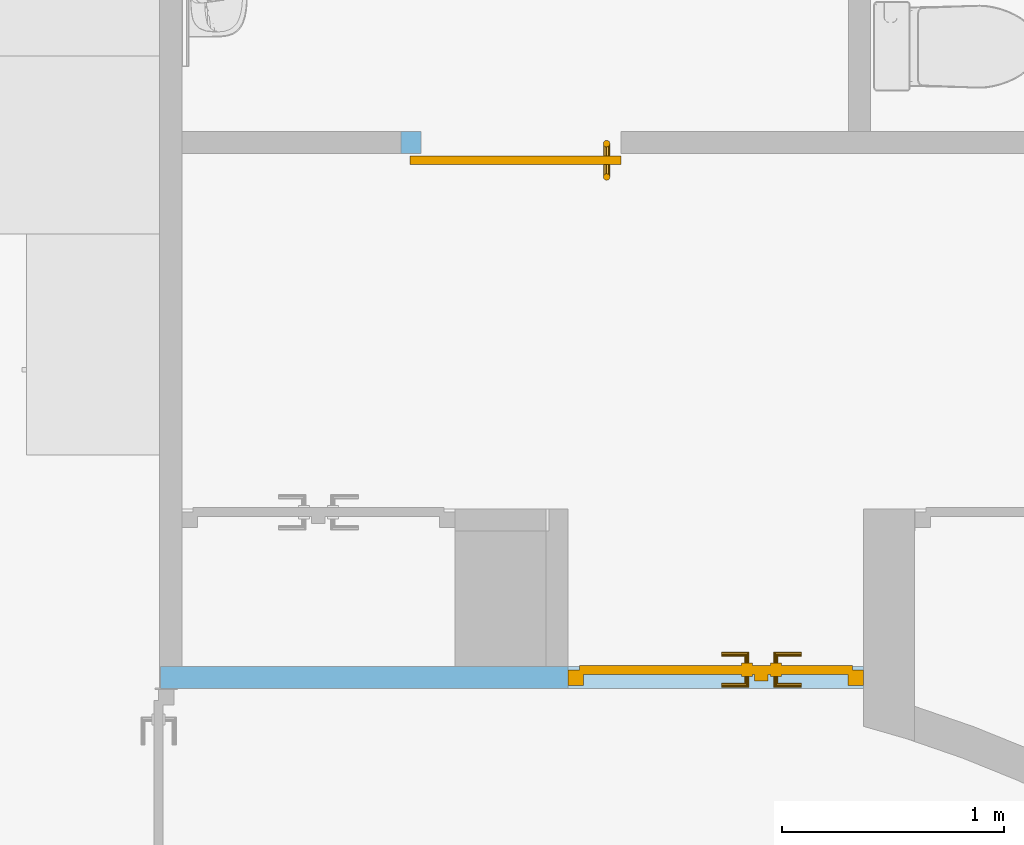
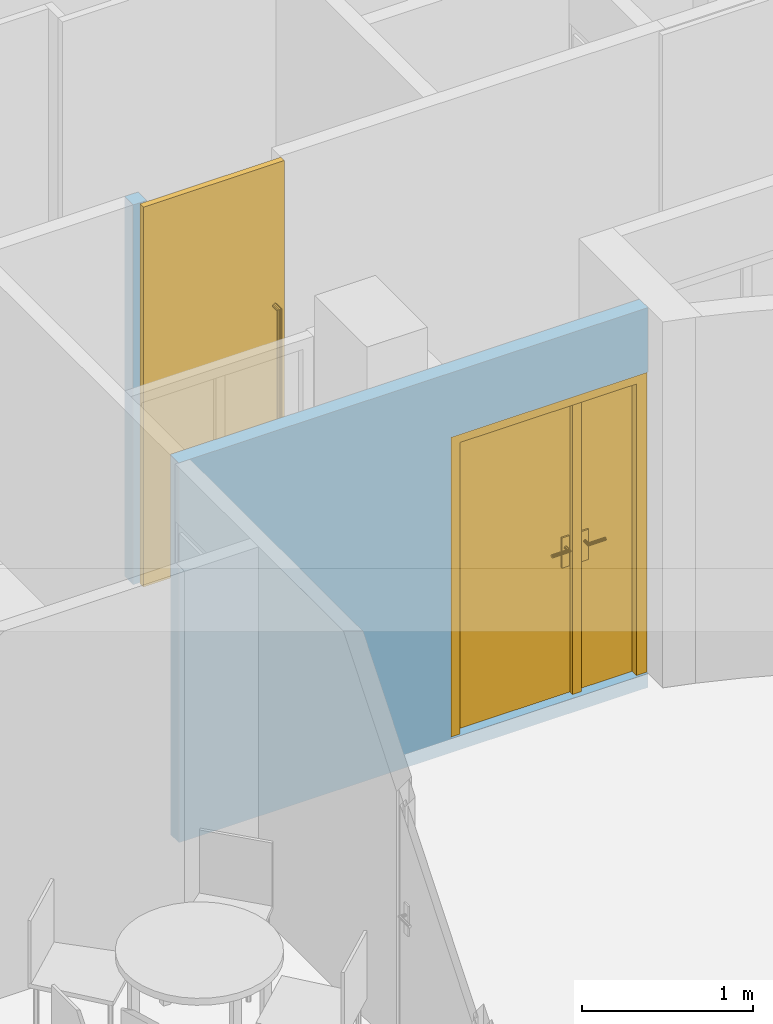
"""IFC4 building model written with IfcOpenShell, lengths in metres."""

import ifcopenshell
import ifcopenshell.guid

model = None  # the IFC model being written
_history = None  # IfcOwnerHistory: only IFC2X3 demands one
_inside = {}  # id of a spatial element -> (the spatial element, [elements in it])
_under = {}  # id of a project, library or spatial element -> (it, [spatial elements below it])
_declared = {}  # id of a project -> (the project, [libraries it declares])
_typed = {}  # id of a type object -> (the type object, [elements of that type])
_made_of = {}  # id of a material, layer set ... -> (it, [elements and type objects made of it])


def new_model(schema):
    """Start an empty IFC model of exactly this schema.

    Asked for "IFC4X3", IfcOpenShell would pick the latest addendum, in which some entities
    have other attributes; the version numbers below select the first issue.
    IFC2X3 requires an IfcOwnerHistory on every rooted entity: one is made here for all.
    """
    global model, _history
    if schema == "IFC4X3":
        model = ifcopenshell.file(schema_version=(4, 3, 0, 0))
    else:
        model = ifcopenshell.file(schema=schema)
    _inside.clear()
    _under.clear()
    _declared.clear()
    _typed.clear()
    _made_of.clear()
    _history = None
    if model.schema == "IFC2X3":
        org = make("IfcOrganization", Name="unknown")
        user = make(
            "IfcPersonAndOrganization",
            ThePerson=make("IfcPerson", FamilyName="unknown"),
            TheOrganization=org,
        )
        app = make(
            "IfcApplication",
            ApplicationDeveloper=org,
            Version="unknown",
            ApplicationFullName="unknown",
            ApplicationIdentifier="unknown",
        )
        _history = make(
            "IfcOwnerHistory",
            OwningUser=user,
            OwningApplication=app,
            ChangeAction="ADDED",
            CreationDate=0,
        )
    return model


def make(cls, **values):
    """One entity of the class cls with the attributes given. An attribute that is None is left unset."""
    return model.create_entity(
        cls, **{name: value for name, value in values.items() if value is not None}
    )


def entity(cls, *values):
    """Any entity or typed value of the class cls, its attributes in the order of the schema. None: left unset."""
    e = model.create_entity(cls)
    for i, value in enumerate(values):
        if value is not None:
            e[i] = value
    return e


def rooted(cls, **values):
    """An entity with a GlobalId (a new one), such as an element, a storey or a relation."""
    return make(cls, GlobalId=ifcopenshell.guid.new(), OwnerHistory=_history, **values)


def si_unit(unit_type, name, prefix=None):
    """IfcSIUnit, for example si_unit("LENGTHUNIT", "METRE", prefix="MILLI")."""
    return make("IfcSIUnit", UnitType=unit_type, Prefix=prefix, Name=name)


def converted_unit(unit_type, name, factor, base, dimensions=None, offset=None):
    """IfcConversionBasedUnit, such as the inch: factor (a typed value) times the base unit."""
    return make(
        "IfcConversionBasedUnit"
        if offset is None
        else "IfcConversionBasedUnitWithOffset",
        ConversionOffset=offset,
        Dimensions=None
        if dimensions is None
        else entity("IfcDimensionalExponents", *dimensions),
        UnitType=unit_type,
        Name=name,
        ConversionFactor=make(
            "IfcMeasureWithUnit", ValueComponent=factor, UnitComponent=base
        ),
    )


def derived_unit(unit_type, elements):
    """IfcDerivedUnit: a product of units, each with its exponent."""
    return make(
        "IfcDerivedUnit",
        Elements=[
            make("IfcDerivedUnitElement", Unit=unit, Exponent=power)
            for unit, power in elements
        ],
        UnitType=unit_type,
    )


def assignment(units):
    """IfcUnitAssignment: the units of a project."""
    return None if units is None else make("IfcUnitAssignment", Units=units)


def point(xyz):
    """IfcCartesianPoint."""
    return None if xyz is None else make("IfcCartesianPoint", Coordinates=xyz)


def direction(xyz):
    """IfcDirection."""
    return None if xyz is None else make("IfcDirection", DirectionRatios=xyz)


def frame(location, z_axis=None, x_axis=None):
    """IfcAxis2Placement3D, a coordinate frame: its origin and axes. An axis left out is left unset."""
    return make(
        "IfcAxis2Placement3D",
        Location=point(location),
        Axis=direction(z_axis),
        RefDirection=direction(x_axis),
    )


def frame_2d(location, x_axis=None):
    """IfcAxis2Placement2D, a coordinate frame in the plane: its origin and x axis."""
    return make(
        "IfcAxis2Placement2D", Location=point(location), RefDirection=direction(x_axis)
    )


def origin():
    """The frame at (0, 0, 0) with its axes left unset."""
    return frame((0.0, 0.0, 0.0))


def origin_with_axes():
    """The frame at (0, 0, 0) with the z axis (0, 0, 1) and the x axis (1, 0, 0) written out."""
    return frame((0.0, 0.0, 0.0), z_axis=(0.0, 0.0, 1.0), x_axis=(1.0, 0.0, 0.0))


def place(relative_to, where):
    """IfcLocalPlacement: puts the frame where relative to a parent placement (None: the world)."""
    return make(
        "IfcLocalPlacement", PlacementRelTo=relative_to, RelativePlacement=where
    )


def context(
    kind, dimensions, precision=None, world=None, true_north=None, identifier=None
):
    """IfcGeometricRepresentationContext, for example the 3D "Model" context."""
    return make(
        "IfcGeometricRepresentationContext",
        ContextIdentifier=identifier,
        ContextType=kind,
        CoordinateSpaceDimension=dimensions,
        Precision=precision,
        WorldCoordinateSystem=world,
        TrueNorth=true_north,
    )


def subcontext(parent, identifier, kind, view, scale=None):
    """IfcGeometricRepresentationSubContext, for example "Body" below "Model"."""
    return make(
        "IfcGeometricRepresentationSubContext",
        ContextIdentifier=identifier,
        ContextType=kind,
        ParentContext=parent,
        TargetScale=scale,
        TargetView=view,
    )


def project(units=None, contexts=None):
    """IfcProject with its units and contexts."""
    return rooted(
        "IfcProject",
        Name="project",
        RepresentationContexts=contexts,
        UnitsInContext=assignment(units),
    )


def spatial(cls, under=None, at=None, **own):
    """A site, building, storey or space (cls), placed at a placement, below another one or the project."""
    s = rooted(cls, ObjectPlacement=at, **own)
    if under is not None:
        _under.setdefault(under.id(), (under, []))[1].append(s)
    return s


def polyline(points):
    """IfcPolyline through the points."""
    return make("IfcPolyline", Points=[point(p) for p in points])


def profile(cls, at=None, kind="AREA", **sizes):
    """A parametric profile (cls). Its sizes go by their IFC names, for example OverallWidth=200.0."""
    return make(cls, ProfileType=kind, Position=at, **sizes)


def rectangle(**sizes):
    """IfcRectangleProfileDef."""
    return profile("IfcRectangleProfileDef", **sizes)


def outline(outer, holes=None, kind="AREA"):
    """IfcArbitraryClosedProfileDef: a profile drawn as a closed curve; with holes, ...WithVoids."""
    if holes is None:
        return make("IfcArbitraryClosedProfileDef", ProfileType=kind, OuterCurve=outer)
    return make(
        "IfcArbitraryProfileDefWithVoids",
        ProfileType=kind,
        OuterCurve=outer,
        InnerCurves=holes,
    )


def extrude(swept, where, along, depth):
    """IfcExtrudedAreaSolid: the profile swept, set in the frame where, extruded along a direction by depth."""
    return make(
        "IfcExtrudedAreaSolid",
        SweptArea=swept,
        Position=where,
        ExtrudedDirection=direction(along),
        Depth=depth,
    )


def faces_of(points, faces, orient=None, outer=None):
    """IfcFace entities. A face is a list of loops; a loop is a list of indices into points, from 0.

    orient and outer hold one flag for each loop. By default every Orientation is true, the
    first loop of a face is its IfcFaceOuterBound and the others are IfcFaceBound.
    """
    made = []
    for i, loops in enumerate(faces):
        bounds = []
        for j, loop in enumerate(loops):
            is_outer = j == 0 if outer is None else outer[i][j]
            bounds.append(
                make(
                    "IfcFaceOuterBound" if is_outer else "IfcFaceBound",
                    Bound=make("IfcPolyLoop", Polygon=[points[k] for k in loop]),
                    Orientation=True if orient is None else orient[i][j],
                )
            )
        made.append(make("IfcFace", Bounds=bounds))
    return made


def faceted_brep(points, faces, orient=None, outer=None, voids=None):
    """IfcFacetedBrep: a solid bounded by flat faces; with voids (closed shells), ...WithVoids."""
    shared = [point(p) for p in points]
    hull = make("IfcClosedShell", CfsFaces=faces_of(shared, faces, orient, outer))
    if voids is None:
        return make("IfcFacetedBrep", Outer=hull)
    return make(
        "IfcFacetedBrepWithVoids",
        Outer=hull,
        Voids=[
            make(cls, CfsFaces=faces_of(shared, fs, o, b)) for cls, fs, o, b in voids
        ],
    )


def shape(context_of_items, identifier, shape_type, items):
    """IfcShapeRepresentation: the items that make up one representation, for example the "Body"."""
    return make(
        "IfcShapeRepresentation",
        ContextOfItems=context_of_items,
        RepresentationIdentifier=identifier,
        RepresentationType=shape_type,
        Items=items,
    )


def source(mapping_origin, context_of_items, identifier, shape_type, items):
    """IfcRepresentationMap: a shape defined once, which mapped items show again and again."""
    return make(
        "IfcRepresentationMap",
        MappingOrigin=mapping_origin,
        MappedRepresentation=shape(context_of_items, identifier, shape_type, items),
    )


def transform(
    local_origin,
    x_axis=None,
    y_axis=None,
    z_axis=None,
    scale=None,
    scale2=None,
    scale3=None,
    uniform=True,
):
    """IfcCartesianTransformationOperator3D, or its non-uniform kind. x_axis, y_axis, z_axis: its Axis1, 2, 3."""
    if uniform:
        return make(
            "IfcCartesianTransformationOperator3D",
            Axis1=direction(x_axis),
            Axis2=direction(y_axis),
            LocalOrigin=point(local_origin),
            Scale=scale,
            Axis3=direction(z_axis),
        )
    return make(
        "IfcCartesianTransformationOperator3DnonUniform",
        Axis1=direction(x_axis),
        Axis2=direction(y_axis),
        LocalOrigin=point(local_origin),
        Scale=scale,
        Axis3=direction(z_axis),
        Scale2=scale2,
        Scale3=scale3,
    )


def mapped(mapping_source, mapping_target):
    """IfcMappedItem: shows the shape of a source again, moved by a transform."""
    return make(
        "IfcMappedItem", MappingSource=mapping_source, MappingTarget=mapping_target
    )


def material(Name=None, Category=None):
    """IfcMaterial."""
    return make("IfcMaterial", Name=Name, Category=Category)


def layer(
    of_material, thickness, ventilated=None, Name=None, Category=None, Priority=None
):
    """IfcMaterialLayer: one layer of a wall or slab, of a material (None: an air gap)."""
    return make(
        "IfcMaterialLayer",
        Material=of_material,
        LayerThickness=thickness,
        IsVentilated=ventilated,
        Name=Name,
        Category=Category,
        Priority=Priority,
    )


def layer_set(layers, Name=None):
    """IfcMaterialLayerSet."""
    return make("IfcMaterialLayerSet", MaterialLayers=layers, LayerSetName=Name)


def layer_usage(for_layer_set, set_direction, sense, offset, extent=None):
    """IfcMaterialLayerSetUsage: how a layer set lies in its element."""
    return make(
        "IfcMaterialLayerSetUsage",
        ForLayerSet=for_layer_set,
        LayerSetDirection=set_direction,
        DirectionSense=sense,
        OffsetFromReferenceLine=offset,
        ReferenceExtent=extent,
    )


def made_of(thing, what):
    """Note that an element or type object is made of a material, layer set ...; save() writes the relation."""
    if what is not None:
        _made_of.setdefault(what.id(), (what, []))[1].append(thing)
    return thing


def element(
    cls,
    number,
    at=None,
    inside=None,
    cuts=None,
    type_object=None,
    material=None,
    context=None,
    identifier="Body",
    shape_type=None,
    held_by="IfcProductDefinitionShape",
    body=None,
    shapes=None,
    **own,
):
    """One element of the class cls, such as IfcWall. Its Tag is "e" and its number.

    at: its placement. inside: the storey or other place that contains it. cuts: it is an
    opening in that element (IfcRelVoidsElement). A single representation is given by context,
    identifier, shape_type and body (its items); several are given by shapes. held_by: the class
    of the entity that holds the representations. save() writes the other relations.
    """
    e = rooted(cls, Tag="e%d" % number, ObjectPlacement=at, **own)
    if body is not None:
        shapes = [shape(context, identifier, shape_type, body)]
    if shapes is not None:
        e.Representation = make(held_by, Representations=shapes)
    if inside is not None:
        _inside.setdefault(inside.id(), (inside, []))[1].append(e)
    if cuts is not None:
        rooted(
            "IfcRelVoidsElement", RelatingBuildingElement=cuts, RelatedOpeningElement=e
        )
    if type_object is not None:
        _typed.setdefault(type_object.id(), (type_object, []))[1].append(e)
    return made_of(e, material)


def fill(opening, filler):
    """IfcRelFillsElement: the door or window that sits in an opening."""
    return rooted(
        "IfcRelFillsElement",
        RelatingOpeningElement=opening,
        RelatedBuildingElement=filler,
    )


def aggregate(whole, parts):
    """IfcRelAggregates: a whole, such as a stair, and the parts it consists of."""
    return rooted("IfcRelAggregates", RelatingObject=whole, RelatedObjects=parts)


def save(model, path):
    """Write the relations noted so far, then the file.

    IfcRelAggregates (storeys below a building ...), IfcRelContainedInSpatialStructure (elements
    in a storey), IfcRelDefinesByType, IfcRelAssociatesMaterial and IfcRelDeclares: one each for
    every whole, place, type object, material and project.
    """
    for whole, parts in _under.values():
        aggregate(whole, parts)
    for where, things in _inside.values():
        rooted(
            "IfcRelContainedInSpatialStructure",
            RelatedElements=things,
            RelatingStructure=where,
        )
    for kind, things in _typed.values():
        rooted("IfcRelDefinesByType", RelatedObjects=things, RelatingType=kind)
    for what, things in _made_of.values():
        rooted("IfcRelAssociatesMaterial", RelatedObjects=things, RelatingMaterial=what)
    for by, libraries in _declared.values():
        rooted("IfcRelDeclares", RelatingContext=by, RelatedDefinitions=libraries)
    model.write(path)


model = new_model("IFC4")

# Units and contexts
model_context = context("Model", 3, precision=1e-05, world=origin())
body_context = subcontext(model_context, "Body", "Model", "MODEL_VIEW")
ifc_project = project(units=[si_unit("LENGTHUNIT", "METRE"), si_unit("AREAUNIT", "SQUARE_METRE"), si_unit("VOLUMEUNIT", "CUBIC_METRE"), si_unit("MASSUNIT", "GRAM", prefix="KILO"), converted_unit("PLANEANGLEUNIT", "DEGREE", entity("IfcPlaneAngleMeasure", 0.0174532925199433), si_unit("PLANEANGLEUNIT", "RADIAN"), dimensions=[0, 0, 0, 0, 0, 0, 0]), derived_unit("THERMALTRANSMITTANCEUNIT", [(si_unit("POWERUNIT", "WATT"), 1), (si_unit("THERMODYNAMICTEMPERATUREUNIT", "KELVIN"), -1), (si_unit("LENGTHUNIT", "METRE"), -2)]), derived_unit("VOLUMETRICFLOWRATEUNIT", [(si_unit("LENGTHUNIT", "METRE"), 3), (converted_unit("TIMEUNIT", "hour", entity("IfcTimeMeasure", 3600.0), si_unit("TIMEUNIT", "SECOND"), dimensions=[0, 0, 1, 0, 0, 0, 0]), -1), (si_unit("LENGTHUNIT", "METRE"), -1)])], contexts=[model_context])

# Building, storeys
building_placement = place(None, origin())
building = spatial("IfcBuilding", under=ifc_project, at=building_placement, Name="HABITATGE PLURIFAMILIAR", CompositionType="ELEMENT")
storey_1_placement = place(building_placement, frame((0.0, 0.0, 12.27)))
storey_1 = spatial("IfcBuildingStorey", under=building, at=storey_1_placement, Name="PLANTA TERCERA", CompositionType="ELEMENT", Elevation=12.27)
storey_2_placement = place(storey_1_placement, frame((0.0, 0.0, 9.26)))
storey_2 = spatial("IfcBuildingStorey", under=storey_1, at=storey_2_placement, Name="NOU", CompositionType="PARTIAL")

# Wall, opening, door
ifc_material_1 = material()
ifc_layer_1 = layer(ifc_material_1, 0.1)
ifc_layer_set_1 = layer_set([ifc_layer_1])
ifc_layer_usage_1 = layer_usage(ifc_layer_set_1, "AXIS2", "POSITIVE", 0.0)
wall_1_placement = place(storey_2_placement, frame((404.341049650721, 23.4194598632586, -9.36)))
wall_1 = element("IfcWall", 1, at=wall_1_placement, inside=storey_2, material=ifc_layer_usage_1, Name="Evans P3", context=body_context, shape_type="SweptSolid", body=[
    extrude(rectangle(XDim=3.16593512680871, YDim=0.1, at=frame_2d((1.58296756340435, 0.05), x_axis=(1.0, 0.0))), origin_with_axes(), (0.0, 0.0, 1.0), 2.71),
])
opening_1_placement = place(wall_1_placement, frame((1.83593512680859, 0.0, 0.1), z_axis=(0.0, 1.0, 0.0), x_axis=(0.0, 0.0, 1.0)))
opening_1 = element("IfcOpeningElement", 2, at=opening_1_placement, cuts=wall_1, Name="Vano porta P3", ObjectType="Opening", context=body_context, shape_type="SweptSolid", body=[
    extrude(outline(polyline([(2.15, 1.33000000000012), (2.15, 0.0), (0.0, 0.0), (0.0, 1.33000000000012), (2.15, 1.33000000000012)])), origin_with_axes(), (0.0, 0.0, 1.0), 0.1),
])
shared_shape_1 = source(origin_with_axes(), body_context, "Body", "Brep", [
    faceted_brep([(0.0, 0.07, 2.15), (0.0, 0.07, 0.0), (0.07, 0.07, 0.0), (0.07, 0.07, 2.15), (0.0, 0.0, 0.0), (0.0, 0.0, 2.15), (0.07, 0.0, 2.15), (0.07, 0.0, 0.0)], [[[0, 1, 2, 3]], [[4, 5, 6, 7]], [[1, 0, 5, 4]], [[2, 1, 4, 7]], [[3, 2, 7, 6]], [[0, 3, 6, 5]]], orient=[[False], [False], [False], [False], [False], [False]]),
    faceted_brep([(1.26000000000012, 0.07, 2.15), (1.26000000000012, 0.07, 0.0), (1.33000000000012, 0.07, 0.0), (1.33000000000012, 0.07, 2.15), (1.26000000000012, 0.0, 0.0), (1.26000000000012, 0.0, 2.15), (1.33000000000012, 0.0, 2.15), (1.33000000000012, 0.0, 0.0)], [[[0, 1, 2, 3]], [[4, 5, 6, 7]], [[1, 0, 5, 4]], [[2, 1, 4, 7]], [[3, 2, 7, 6]], [[0, 3, 6, 5]]], orient=[[False], [False], [False], [False], [False], [False]]),
    faceted_brep([(0.07, 0.07, 2.15), (0.07, 0.07, 2.08), (1.26000000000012, 0.07, 2.08), (1.26000000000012, 0.07, 2.15), (0.07, 0.0, 2.08), (0.07, 0.0, 2.15), (1.26000000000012, 0.0, 2.15), (1.26000000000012, 0.0, 2.08)], [[[0, 1, 2, 3]], [[4, 5, 6, 7]], [[1, 0, 5, 4]], [[2, 1, 4, 7]], [[3, 2, 7, 6]], [[0, 3, 6, 5]]], orient=[[False], [False], [False], [False], [False], [False]]),
    faceted_brep([(0.05, 0.09, 2.1), (0.05, 0.09, 0.0), (0.870000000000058, 0.09, 0.0), (0.870000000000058, 0.09, 2.1), (0.05, 0.05, 0.0), (0.05, 0.05, 2.1), (0.870000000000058, 0.05, 2.1), (0.870000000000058, 0.05, 0.0)], [[[0, 1, 2, 3]], [[4, 5, 6, 7]], [[1, 0, 5, 4]], [[2, 1, 4, 7]], [[3, 2, 7, 6]], [[0, 3, 6, 5]]], orient=[[False], [False], [False], [False], [False], [False]]),
    faceted_brep([(0.840000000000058, 0.05, 2.08), (0.840000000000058, 0.05, 0.0), (0.900000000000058, 0.05, 0.0), (0.900000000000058, 0.05, 2.08), (0.840000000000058, 0.02, 0.0), (0.840000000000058, 0.02, 2.08), (0.900000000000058, 0.02, 2.08), (0.900000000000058, 0.02, 0.0)], [[[0, 1, 2, 3]], [[4, 5, 6, 7]], [[1, 0, 5, 4]], [[2, 1, 4, 7]], [[3, 2, 7, 6]], [[0, 3, 6, 5]]], orient=[[False], [False], [False], [False], [False], [False]]),
    faceted_brep([(0.780000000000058, 0.05, 1.125), (0.780000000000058, 0.05, 0.91), (0.830000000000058, 0.05, 0.91), (0.830000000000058, 0.05, 1.125), (0.780000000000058, 0.04, 0.91), (0.780000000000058, 0.04, 1.125), (0.830000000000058, 0.04, 1.125), (0.830000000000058, 0.04, 0.91)], [[[0, 1, 2, 3]], [[4, 5, 6, 7]], [[1, 0, 5, 4]], [[2, 1, 4, 7]], [[3, 2, 7, 6]], [[0, 3, 6, 5]]], orient=[[False], [False], [False], [False], [False], [False]]),
    faceted_brep([(0.805000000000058, 0.04, 1.06), (0.800000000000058, 0.04, 1.05866025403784), (0.796339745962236, 0.04, 1.055), (0.795000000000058, 0.04, 1.05), (0.796339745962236, 0.04, 1.045), (0.800000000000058, 0.04, 1.04133974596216), (0.805000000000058, 0.04, 1.04), (0.810000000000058, 0.04, 1.04133974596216), (0.813660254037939, 0.04, 1.045), (0.815000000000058, 0.04, 1.05), (0.813660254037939, 0.04, 1.055), (0.810000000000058, 0.04, 1.05866025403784), (0.810000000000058, -0.005, 1.05866025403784), (0.805000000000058, 0.0, 1.06), (0.813660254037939, -0.00866025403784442, 1.055), (0.815000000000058, -0.01, 1.05), (0.813660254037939, -0.00866025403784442, 1.045), (0.810000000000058, -0.005, 1.04133974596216), (0.805000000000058, 0.0, 1.04), (0.800000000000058, 0.005, 1.04133974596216), (0.796339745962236, 0.00866025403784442, 1.045), (0.795000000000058, 0.01, 1.05), (0.796339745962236, 0.00866025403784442, 1.055), (0.800000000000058, 0.005, 1.05866025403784), (0.690000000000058, 0.0, 1.06), (0.690000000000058, -0.005, 1.05866025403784), (0.690000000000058, -0.00866025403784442, 1.055), (0.690000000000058, -0.01, 1.05), (0.690000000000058, -0.00866025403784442, 1.045), (0.690000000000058, -0.005, 1.04133974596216), (0.690000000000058, 0.0, 1.04), (0.690000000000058, 0.005, 1.04133974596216), (0.690000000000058, 0.00866025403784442, 1.045), (0.690000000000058, 0.01, 1.05), (0.690000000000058, 0.00866025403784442, 1.055), (0.690000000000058, 0.005, 1.05866025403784)], [[[0, 1, 2, 3, 4, 5, 6, 7, 8, 9, 10, 11]], [[0, 11, 12, 13]], [[11, 10, 14, 12]], [[10, 9, 15, 14]], [[9, 8, 16, 15]], [[8, 7, 17, 16]], [[7, 6, 18, 17]], [[6, 5, 19, 18]], [[5, 4, 20, 19]], [[4, 3, 21, 20]], [[3, 2, 22, 21]], [[2, 1, 23, 22]], [[1, 0, 13, 23]], [[24, 25, 26, 27, 28, 29, 30, 31, 32, 33, 34, 35]], [[13, 12, 25, 24]], [[12, 14, 26, 25]], [[14, 15, 27, 26]], [[15, 16, 28, 27]], [[16, 17, 29, 28]], [[17, 18, 30, 29]], [[18, 19, 31, 30]], [[19, 20, 32, 31]], [[20, 21, 33, 32]], [[21, 22, 34, 33]], [[22, 23, 35, 34]], [[23, 13, 24, 35]]], orient=[[False], [False], [False], [False], [False], [False], [False], [False], [False], [False], [False], [False], [False], [False], [False], [False], [False], [False], [False], [False], [False], [False], [False], [False], [False], [False]]),
    faceted_brep([(0.780000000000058, 0.09, 1.125), (0.830000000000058, 0.09, 1.125), (0.830000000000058, 0.09, 0.91), (0.780000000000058, 0.09, 0.91), (0.780000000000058, 0.1, 0.91), (0.830000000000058, 0.1, 0.91), (0.830000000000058, 0.1, 1.125), (0.780000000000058, 0.1, 1.125)], [[[0, 1, 2, 3]], [[4, 5, 6, 7]], [[3, 4, 7, 0]], [[2, 5, 4, 3]], [[1, 6, 5, 2]], [[0, 7, 6, 1]]], orient=[[False], [False], [False], [False], [False], [False]]),
    faceted_brep([(0.805000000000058, 0.1, 1.06), (0.810000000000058, 0.1, 1.05866025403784), (0.813660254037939, 0.1, 1.055), (0.815000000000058, 0.1, 1.05), (0.813660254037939, 0.1, 1.045), (0.810000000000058, 0.1, 1.04133974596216), (0.805000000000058, 0.1, 1.04), (0.800000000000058, 0.1, 1.04133974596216), (0.796339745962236, 0.1, 1.045), (0.795000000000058, 0.1, 1.05), (0.796339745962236, 0.1, 1.055), (0.800000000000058, 0.1, 1.05866025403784), (0.805000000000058, 0.14, 1.06), (0.810000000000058, 0.145, 1.05866025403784), (0.813660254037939, 0.148660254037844, 1.055), (0.815000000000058, 0.15, 1.05), (0.813660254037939, 0.148660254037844, 1.045), (0.810000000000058, 0.145, 1.04133974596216), (0.805000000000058, 0.14, 1.04), (0.800000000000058, 0.135, 1.04133974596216), (0.796339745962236, 0.131339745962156, 1.045), (0.795000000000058, 0.13, 1.05), (0.796339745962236, 0.131339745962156, 1.055), (0.800000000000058, 0.135, 1.05866025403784), (0.690000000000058, 0.14, 1.06), (0.690000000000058, 0.135, 1.05866025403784), (0.690000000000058, 0.131339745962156, 1.055), (0.690000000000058, 0.13, 1.05), (0.690000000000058, 0.131339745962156, 1.045), (0.690000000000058, 0.135, 1.04133974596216), (0.690000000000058, 0.14, 1.04), (0.690000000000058, 0.145, 1.04133974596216), (0.690000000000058, 0.148660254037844, 1.045), (0.690000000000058, 0.15, 1.05), (0.690000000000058, 0.148660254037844, 1.055), (0.690000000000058, 0.145, 1.05866025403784)], [[[0, 1, 2, 3, 4, 5, 6, 7, 8, 9, 10, 11]], [[0, 12, 13, 1]], [[1, 13, 14, 2]], [[2, 14, 15, 3]], [[3, 15, 16, 4]], [[4, 16, 17, 5]], [[5, 17, 18, 6]], [[6, 18, 19, 7]], [[7, 19, 20, 8]], [[8, 20, 21, 9]], [[9, 21, 22, 10]], [[10, 22, 23, 11]], [[11, 23, 12, 0]], [[24, 25, 26, 27, 28, 29, 30, 31, 32, 33, 34, 35]], [[12, 24, 35, 13]], [[13, 35, 34, 14]], [[14, 34, 33, 15]], [[15, 33, 32, 16]], [[16, 32, 31, 17]], [[17, 31, 30, 18]], [[18, 30, 29, 19]], [[19, 29, 28, 20]], [[20, 28, 27, 21]], [[21, 27, 26, 22]], [[22, 26, 25, 23]], [[23, 25, 24, 12]]], orient=[[False], [False], [False], [False], [False], [False], [False], [False], [False], [False], [False], [False], [False], [False], [False], [False], [False], [False], [False], [False], [False], [False], [False], [False], [False], [False]]),
    faceted_brep([(0.871000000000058, 0.09, 2.1), (0.871000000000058, 0.09, 0.0), (1.28000000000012, 0.09, 0.0), (1.28000000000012, 0.09, 2.1), (0.871000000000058, 0.05, 0.0), (0.871000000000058, 0.05, 2.1), (1.28000000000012, 0.05, 2.1), (1.28000000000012, 0.05, 0.0)], [[[0, 1, 2, 3]], [[4, 5, 6, 7]], [[1, 0, 5, 4]], [[2, 1, 4, 7]], [[3, 2, 7, 6]], [[0, 3, 6, 5]]], orient=[[False], [False], [False], [False], [False], [False]]),
    faceted_brep([(0.911000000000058, 0.05, 1.125), (0.911000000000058, 0.05, 0.91), (0.961000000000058, 0.05, 0.91), (0.961000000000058, 0.05, 1.125), (0.911000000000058, 0.04, 0.91), (0.911000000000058, 0.04, 1.125), (0.961000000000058, 0.04, 1.125), (0.961000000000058, 0.04, 0.91)], [[[0, 1, 2, 3]], [[4, 5, 6, 7]], [[1, 0, 5, 4]], [[2, 1, 4, 7]], [[3, 2, 7, 6]], [[0, 3, 6, 5]]], orient=[[False], [False], [False], [False], [False], [False]]),
    faceted_brep([(0.936000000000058, 0.04, 1.06), (0.931000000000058, 0.04, 1.05866025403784), (0.927339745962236, 0.04, 1.055), (0.926000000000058, 0.04, 1.05), (0.927339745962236, 0.04, 1.045), (0.931000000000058, 0.04, 1.04133974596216), (0.936000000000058, 0.04, 1.04), (0.941000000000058, 0.04, 1.04133974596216), (0.944660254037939, 0.04, 1.045), (0.946000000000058, 0.04, 1.05), (0.944660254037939, 0.04, 1.055), (0.941000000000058, 0.04, 1.05866025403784), (0.936000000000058, 0.0, 1.06), (0.931000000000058, -0.005, 1.05866025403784), (0.927339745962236, -0.00866025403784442, 1.055), (0.926000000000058, -0.01, 1.05), (0.927339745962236, -0.00866025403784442, 1.045), (0.931000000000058, -0.005, 1.04133974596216), (0.936000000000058, 0.0, 1.04), (0.941000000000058, 0.005, 1.04133974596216), (0.944660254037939, 0.00866025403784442, 1.045), (0.946000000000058, 0.01, 1.05), (0.944660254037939, 0.00866025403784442, 1.055), (0.941000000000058, 0.005, 1.05866025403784), (1.05100000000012, 0.0, 1.06), (1.05100000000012, 0.005, 1.05866025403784), (1.05100000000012, 0.00866025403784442, 1.055), (1.05100000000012, 0.01, 1.05), (1.05100000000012, 0.00866025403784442, 1.045), (1.05100000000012, 0.005, 1.04133974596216), (1.05100000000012, 0.0, 1.04), (1.05100000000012, -0.005, 1.04133974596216), (1.05100000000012, -0.00866025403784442, 1.045), (1.05100000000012, -0.01, 1.05), (1.05100000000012, -0.00866025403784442, 1.055), (1.05100000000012, -0.005, 1.05866025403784)], [[[0, 1, 2, 3, 4, 5, 6, 7, 8, 9, 10, 11]], [[0, 12, 13, 1]], [[1, 13, 14, 2]], [[2, 14, 15, 3]], [[3, 15, 16, 4]], [[4, 16, 17, 5]], [[5, 17, 18, 6]], [[6, 18, 19, 7]], [[7, 19, 20, 8]], [[8, 20, 21, 9]], [[9, 21, 22, 10]], [[10, 22, 23, 11]], [[11, 23, 12, 0]], [[24, 25, 26, 27, 28, 29, 30, 31, 32, 33, 34, 35]], [[12, 24, 35, 13]], [[13, 35, 34, 14]], [[14, 34, 33, 15]], [[15, 33, 32, 16]], [[16, 32, 31, 17]], [[17, 31, 30, 18]], [[18, 30, 29, 19]], [[19, 29, 28, 20]], [[20, 28, 27, 21]], [[21, 27, 26, 22]], [[22, 26, 25, 23]], [[23, 25, 24, 12]]], orient=[[False], [False], [False], [False], [False], [False], [False], [False], [False], [False], [False], [False], [False], [False], [False], [False], [False], [False], [False], [False], [False], [False], [False], [False], [False], [False]]),
    faceted_brep([(0.911000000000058, 0.09, 1.125), (0.961000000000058, 0.09, 1.125), (0.961000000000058, 0.09, 0.91), (0.911000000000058, 0.09, 0.91), (0.911000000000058, 0.1, 0.91), (0.961000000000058, 0.1, 0.91), (0.961000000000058, 0.1, 1.125), (0.911000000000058, 0.1, 1.125)], [[[0, 1, 2, 3]], [[4, 5, 6, 7]], [[3, 4, 7, 0]], [[2, 5, 4, 3]], [[1, 6, 5, 2]], [[0, 7, 6, 1]]], orient=[[False], [False], [False], [False], [False], [False]]),
    faceted_brep([(0.936000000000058, 0.1, 1.06), (0.941000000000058, 0.1, 1.05866025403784), (0.944660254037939, 0.1, 1.055), (0.946000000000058, 0.1, 1.05), (0.944660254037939, 0.1, 1.045), (0.941000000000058, 0.1, 1.04133974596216), (0.936000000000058, 0.1, 1.04), (0.931000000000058, 0.1, 1.04133974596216), (0.927339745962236, 0.1, 1.045), (0.926000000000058, 0.1, 1.05), (0.927339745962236, 0.1, 1.055), (0.931000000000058, 0.1, 1.05866025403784), (0.931000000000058, 0.145, 1.05866025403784), (0.936000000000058, 0.14, 1.06), (0.927339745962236, 0.148660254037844, 1.055), (0.926000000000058, 0.15, 1.05), (0.927339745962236, 0.148660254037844, 1.045), (0.931000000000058, 0.145, 1.04133974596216), (0.936000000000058, 0.14, 1.04), (0.941000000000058, 0.135, 1.04133974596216), (0.944660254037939, 0.131339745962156, 1.045), (0.946000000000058, 0.13, 1.05), (0.944660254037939, 0.131339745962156, 1.055), (0.941000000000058, 0.135, 1.05866025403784), (1.05100000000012, 0.14, 1.06), (1.05100000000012, 0.145, 1.05866025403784), (1.05100000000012, 0.148660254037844, 1.055), (1.05100000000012, 0.15, 1.05), (1.05100000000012, 0.148660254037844, 1.045), (1.05100000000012, 0.145, 1.04133974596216), (1.05100000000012, 0.14, 1.04), (1.05100000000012, 0.135, 1.04133974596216), (1.05100000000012, 0.131339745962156, 1.045), (1.05100000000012, 0.13, 1.05), (1.05100000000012, 0.131339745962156, 1.055), (1.05100000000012, 0.135, 1.05866025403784)], [[[0, 1, 2, 3, 4, 5, 6, 7, 8, 9, 10, 11]], [[0, 11, 12, 13]], [[11, 10, 14, 12]], [[10, 9, 15, 14]], [[9, 8, 16, 15]], [[8, 7, 17, 16]], [[7, 6, 18, 17]], [[6, 5, 19, 18]], [[5, 4, 20, 19]], [[4, 3, 21, 20]], [[3, 2, 22, 21]], [[2, 1, 23, 22]], [[1, 0, 13, 23]], [[24, 25, 26, 27, 28, 29, 30, 31, 32, 33, 34, 35]], [[13, 12, 25, 24]], [[12, 14, 26, 25]], [[14, 15, 27, 26]], [[15, 16, 28, 27]], [[16, 17, 29, 28]], [[17, 18, 30, 29]], [[18, 19, 31, 30]], [[19, 20, 32, 31]], [[20, 21, 33, 32]], [[21, 22, 34, 33]], [[22, 23, 35, 34]], [[23, 13, 24, 35]]], orient=[[False], [False], [False], [False], [False], [False], [False], [False], [False], [False], [False], [False], [False], [False], [False], [False], [False], [False], [False], [False], [False], [False], [False], [False], [False], [False]]),
])
door_1_placement = place(opening_1_placement, frame((0.0, 0.0, 0.015), z_axis=(1.0, 0.0, 0.0), x_axis=(0.0, 1.0, 0.0)))
door_1 = element("IfcDoor", 3, at=door_1_placement, inside=storey_2, Name="Porta P3", OperationType="USERDEFINED", OverallHeight=2.15, OverallWidth=1.33, PredefinedType="DOOR", context=body_context, shape_type="MappedRepresentation", body=[
    mapped(shared_shape_1, transform((0.0, 0.0, 0.0), x_axis=(1.0, 0.0, 0.0), y_axis=(0.0, 1.0, 0.0), z_axis=(0.0, 0.0, 1.0), scale=1.0)),
])
fill(opening_1, door_1)

ifc_material_2 = material()
ifc_layer_2 = layer(ifc_material_2, 0.1)
ifc_layer_set_2 = layer_set([ifc_layer_2])
ifc_layer_usage_2 = layer_usage(ifc_layer_set_2, "AXIS2", "POSITIVE", 0.0)
wall_2_placement = place(storey_2_placement, frame((405.424459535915, 25.8294598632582, -9.36)))
wall_2 = element("IfcWall", 4, at=wall_2_placement, inside=storey_2, material=ifc_layer_usage_2, Name="Evans P3", context=body_context, shape_type="SweptSolid", body=[
    extrude(rectangle(XDim=0.990738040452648, YDim=0.1, at=frame_2d((0.495369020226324, 0.05), x_axis=(1.0, 0.0))), origin_with_axes(), (0.0, 0.0, 1.0), 2.71),
])
opening_2_placement = place(wall_2_placement, frame((0.990738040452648, 0.1, 0.0), z_axis=(0.0, -1.0, 0.0), x_axis=(0.0, 0.0, 1.0)))
opening_2 = element("IfcOpeningElement", 5, at=opening_2_placement, cuts=wall_2, Name="Vano porta P3", ObjectType="Opening", context=body_context, shape_type="SweptSolid", body=[
    extrude(outline(polyline([(2.71, 0.9), (2.71, 0.0), (0.0, 0.0), (0.0, 0.9), (2.71, 0.9)])), origin_with_axes(), (0.0, 0.0, 1.0), 0.1),
])
shared_shape_2 = source(origin_with_axes(), body_context, "Body", "Brep", [
    faceted_brep([(0.0, 0.15, 2.71), (0.0, 0.15, 0.0), (0.95, 0.15, 0.0), (0.95, 0.15, 2.71), (0.0, 0.11, 0.0), (0.0, 0.11, 2.71), (0.95, 0.11, 2.71), (0.95, 0.11, 0.0)], [[[0, 1, 2, 3]], [[4, 5, 6, 7]], [[1, 0, 5, 4]], [[2, 1, 4, 7]], [[3, 2, 7, 6]], [[0, 3, 6, 5]]], orient=[[False], [False], [False], [False], [False], [False]]),
    faceted_brep([(0.08, 0.11, 1.7), (0.0779903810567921, 0.11, 1.7075), (0.0725, 0.11, 1.71299038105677), (0.065, 0.11, 1.715), (0.0575, 0.11, 1.71299038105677), (0.0520096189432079, 0.11, 1.7075), (0.05, 0.11, 1.7), (0.0520096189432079, 0.11, 1.6925), (0.0575, 0.11, 1.68700961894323), (0.065, 0.11, 1.685), (0.0725, 0.11, 1.68700961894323), (0.0779903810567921, 0.11, 1.6925), (0.08, 0.055, 1.7), (0.0779903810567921, 0.0475, 1.7075), (0.0725, 0.0420096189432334, 1.71299038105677), (0.065, 0.04, 1.715), (0.0575, 0.0420096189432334, 1.71299038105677), (0.0520096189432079, 0.0475, 1.7075), (0.05, 0.055, 1.7), (0.0520096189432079, 0.0625, 1.6925), (0.0575, 0.0679903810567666, 1.68700961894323), (0.065, 0.07, 1.685), (0.0725, 0.0679903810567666, 1.68700961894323), (0.0779903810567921, 0.0625, 1.6925), (0.08, 0.055, 0.4), (0.0779903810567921, 0.0475, 0.3925), (0.0725, 0.0420096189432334, 0.387009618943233), (0.065, 0.04, 0.385), (0.0575, 0.0420096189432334, 0.387009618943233), (0.0520096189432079, 0.0475, 0.3925), (0.05, 0.055, 0.4), (0.0520096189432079, 0.0625, 0.4075), (0.0575, 0.0679903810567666, 0.412990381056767), (0.065, 0.07, 0.415), (0.0725, 0.0679903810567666, 0.412990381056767), (0.0779903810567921, 0.0625, 0.4075), (0.08, 0.11, 0.4), (0.0779903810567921, 0.11, 0.4075), (0.0725, 0.11, 0.412990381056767), (0.065, 0.11, 0.415), (0.0575, 0.11, 0.412990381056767), (0.0520096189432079, 0.11, 0.4075), (0.05, 0.11, 0.4), (0.0520096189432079, 0.11, 0.3925), (0.0575, 0.11, 0.387009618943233), (0.065, 0.11, 0.385), (0.0725, 0.11, 0.387009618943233), (0.0779903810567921, 0.11, 0.3925)], [[[0, 1, 2, 3, 4, 5, 6, 7, 8, 9, 10, 11]], [[0, 12, 13, 1]], [[1, 13, 14, 2]], [[2, 14, 15, 3]], [[3, 15, 16, 4]], [[4, 16, 17, 5]], [[5, 17, 18, 6]], [[6, 18, 19, 7]], [[7, 19, 20, 8]], [[8, 20, 21, 9]], [[9, 21, 22, 10]], [[10, 22, 23, 11]], [[11, 23, 12, 0]], [[12, 24, 25, 13]], [[13, 25, 26, 14]], [[14, 26, 27, 15]], [[15, 27, 28, 16]], [[16, 28, 29, 17]], [[17, 29, 30, 18]], [[18, 30, 31, 19]], [[19, 31, 32, 20]], [[20, 32, 33, 21]], [[21, 33, 34, 22]], [[22, 34, 35, 23]], [[23, 35, 24, 12]], [[36, 37, 38, 39, 40, 41, 42, 43, 44, 45, 46, 47]], [[24, 36, 47, 25]], [[25, 47, 46, 26]], [[26, 46, 45, 27]], [[27, 45, 44, 28]], [[28, 44, 43, 29]], [[29, 43, 42, 30]], [[30, 42, 41, 31]], [[31, 41, 40, 32]], [[32, 40, 39, 33]], [[33, 39, 38, 34]], [[34, 38, 37, 35]], [[35, 37, 36, 24]]], orient=[[False], [False], [False], [False], [False], [False], [False], [False], [False], [False], [False], [False], [False], [False], [False], [False], [False], [False], [False], [False], [False], [False], [False], [False], [False], [False], [False], [False], [False], [False], [False], [False], [False], [False], [False], [False], [False], [False]]),
    faceted_brep([(0.08, 0.15, 1.7), (0.0779903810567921, 0.15, 1.6925), (0.0725, 0.15, 1.68700961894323), (0.065, 0.15, 1.685), (0.0575, 0.15, 1.68700961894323), (0.0520096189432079, 0.15, 1.6925), (0.05, 0.15, 1.7), (0.0520096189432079, 0.15, 1.7075), (0.0575, 0.15, 1.71299038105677), (0.065, 0.15, 1.715), (0.0725, 0.15, 1.71299038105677), (0.0779903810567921, 0.15, 1.7075), (0.0779903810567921, 0.2125, 1.7075), (0.08, 0.205, 1.7), (0.0725, 0.217990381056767, 1.71299038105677), (0.065, 0.22, 1.715), (0.0575, 0.217990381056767, 1.71299038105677), (0.0520096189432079, 0.2125, 1.7075), (0.05, 0.205, 1.7), (0.0520096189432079, 0.1975, 1.6925), (0.0575, 0.192009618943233, 1.68700961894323), (0.065, 0.19, 1.685), (0.0725, 0.192009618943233, 1.68700961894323), (0.0779903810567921, 0.1975, 1.6925), (0.0779903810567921, 0.2125, 0.3925), (0.08, 0.205, 0.4), (0.0725, 0.217990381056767, 0.387009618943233), (0.065, 0.22, 0.385), (0.0575, 0.217990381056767, 0.387009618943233), (0.0520096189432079, 0.2125, 0.3925), (0.05, 0.205, 0.4), (0.0520096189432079, 0.1975, 0.4075), (0.0575, 0.192009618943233, 0.412990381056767), (0.065, 0.19, 0.415), (0.0725, 0.192009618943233, 0.412990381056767), (0.0779903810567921, 0.1975, 0.4075), (0.08, 0.15, 0.4), (0.0779903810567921, 0.15, 0.3925), (0.0725, 0.15, 0.387009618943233), (0.065, 0.15, 0.385), (0.0575, 0.15, 0.387009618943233), (0.0520096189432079, 0.15, 0.3925), (0.05, 0.15, 0.4), (0.0520096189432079, 0.15, 0.4075), (0.0575, 0.15, 0.412990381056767), (0.065, 0.15, 0.415), (0.0725, 0.15, 0.412990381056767), (0.0779903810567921, 0.15, 0.4075)], [[[0, 1, 2, 3, 4, 5, 6, 7, 8, 9, 10, 11]], [[0, 11, 12, 13]], [[11, 10, 14, 12]], [[10, 9, 15, 14]], [[9, 8, 16, 15]], [[8, 7, 17, 16]], [[7, 6, 18, 17]], [[6, 5, 19, 18]], [[5, 4, 20, 19]], [[4, 3, 21, 20]], [[3, 2, 22, 21]], [[2, 1, 23, 22]], [[1, 0, 13, 23]], [[13, 12, 24, 25]], [[12, 14, 26, 24]], [[14, 15, 27, 26]], [[15, 16, 28, 27]], [[16, 17, 29, 28]], [[17, 18, 30, 29]], [[18, 19, 31, 30]], [[19, 20, 32, 31]], [[20, 21, 33, 32]], [[21, 22, 34, 33]], [[22, 23, 35, 34]], [[23, 13, 25, 35]], [[36, 37, 38, 39, 40, 41, 42, 43, 44, 45, 46, 47]], [[25, 24, 37, 36]], [[24, 26, 38, 37]], [[26, 27, 39, 38]], [[27, 28, 40, 39]], [[28, 29, 41, 40]], [[29, 30, 42, 41]], [[30, 31, 43, 42]], [[31, 32, 44, 43]], [[32, 33, 45, 44]], [[33, 34, 46, 45]], [[34, 35, 47, 46]], [[35, 25, 36, 47]]], orient=[[False], [False], [False], [False], [False], [False], [False], [False], [False], [False], [False], [False], [False], [False], [False], [False], [False], [False], [False], [False], [False], [False], [False], [False], [False], [False], [False], [False], [False], [False], [False], [False], [False], [False], [False], [False], [False], [False]]),
])
door_2_placement = place(opening_2_placement, frame((0.0, 0.0, 0.0), z_axis=(1.0, 0.0, 0.0), x_axis=(0.0, 1.0, 0.0)))
door_2 = element("IfcDoor", 6, at=door_2_placement, inside=storey_2, Name="Porta P3", OperationType="USERDEFINED", OverallHeight=2.71, OverallWidth=0.9, PredefinedType="DOOR", context=body_context, shape_type="MappedRepresentation", body=[
    mapped(shared_shape_2, transform((0.0, 0.0, 0.0), x_axis=(1.0, 0.0, 0.0), y_axis=(0.0, 1.0, 0.0), z_axis=(0.0, 0.0, 1.0), scale=1.0)),
])
fill(opening_2, door_2)

save(model, "model.ifc")
